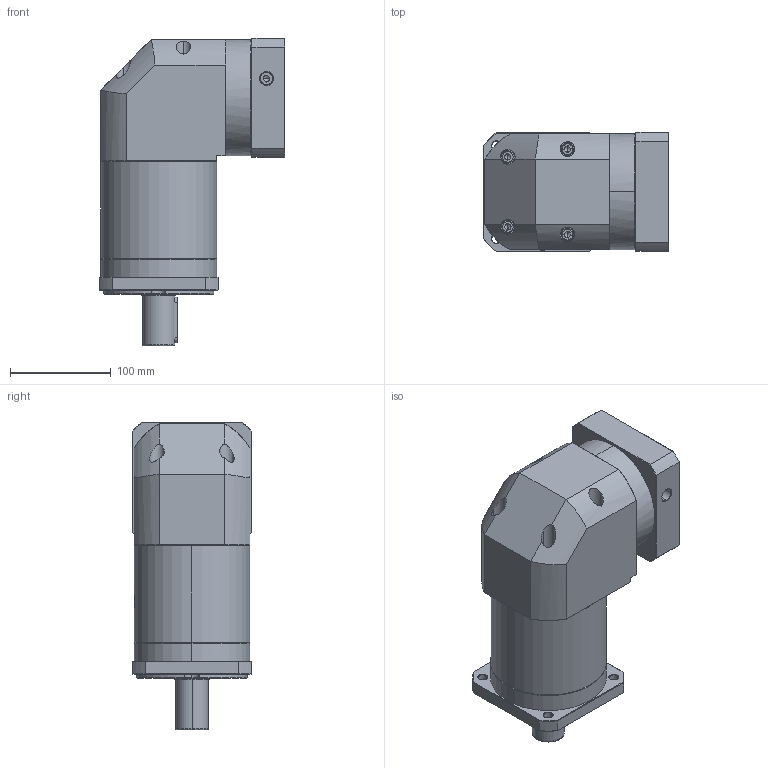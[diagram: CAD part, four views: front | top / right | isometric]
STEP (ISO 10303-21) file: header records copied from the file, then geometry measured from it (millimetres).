
FILE_DESCRIPTION (( 'STEP AP214' ), '1' );
FILE_NAME ('ZFR120A-D32-L3-P2-24-95-115-M6.step', '2023-08-27T08:12:03', ( '' ), ( '' ), 'SwSTEP 2.0', 'SolidWorks 2016', '' );
FILE_SCHEMA (( 'AUTOMOTIVE_DESIGN' ));
Length unit declared in the file: millimetre
Products named in the file (1): ZFR120A-D32-L3-P2-24-95-115-M6
Bounding box: 183.9 x 118 x 305 mm (x, y, z)
Volume: 3403533.2 mm3; surface area: 256955.7 mm2
Topology: 6 solids, 6 shells, 2252 faces, 5930 edges, 3782 vertices
Faces by surface type: plane 1060, bspline 428, cylinder 419, cone 337, torus 8
Entity records: 124640 total; most frequent: CARTESIAN_POINT 49758, ORIENTED_EDGE 11800, DIRECTION 8554, EDGE_CURVE 5900, VERTEX_POINT 3782, VECTOR 3138, LINE 3138, AXIS2_PLACEMENT_3D 2708
